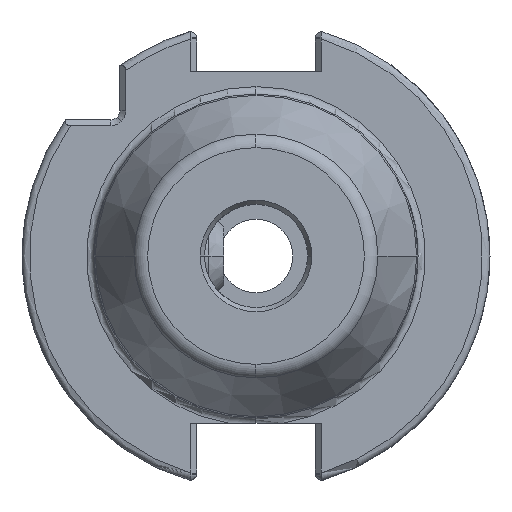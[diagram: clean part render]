
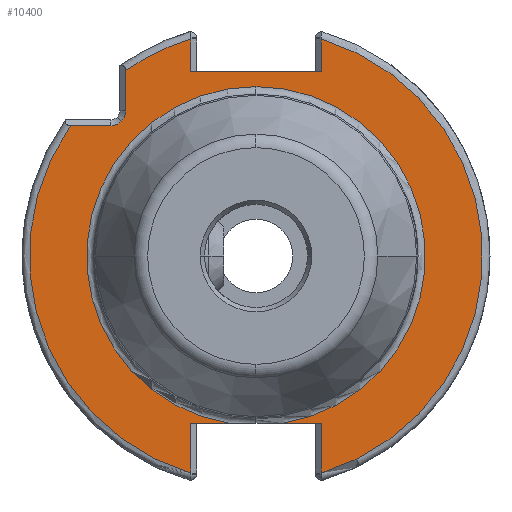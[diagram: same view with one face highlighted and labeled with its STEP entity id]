
A CAD part, front view. The second image highlights one B-rep face of the part: STEP entity #10400.
In plain terms, the highlighted planar face has unit normal (0, -1, 0).
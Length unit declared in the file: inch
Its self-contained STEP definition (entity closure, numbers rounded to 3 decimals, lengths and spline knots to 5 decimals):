
#18 = EDGE_CURVE ( 'NONE', #7217, #160, #2926, .T. ) ;
#44 = EDGE_CURVE ( 'NONE', #9735, #5160, #5776, .T. ) ;
#76 = LINE ( 'NONE', #7502, #7916 ) ;
#160 = VERTEX_POINT ( 'NONE', #6631 ) ;
#197 = VERTEX_POINT ( 'NONE', #2633 ) ;
#317 = VERTEX_POINT ( 'NONE', #5196 ) ;
#383 = EDGE_CURVE ( 'NONE', #317, #4658, #2983, .T. ) ;
#401 = CARTESIAN_POINT ( 'NONE',  ( -0.77559, -0.75197, 0.77559 ) ) ;
#408 = CARTESIAN_POINT ( 'NONE',  ( 0.34843, -0.75197, 1.16043 ) ) ;
#432 = CARTESIAN_POINT ( 'NONE',  ( -0.34843, -0.75197, -0.44685 ) ) ;
#669 = LINE ( 'NONE', #5788, #10387 ) ;
#692 = AXIS2_PLACEMENT_3D ( 'NONE', #401, #2863, #3781 ) ;
#711 = DIRECTION ( 'NONE',  ( 1., 0., 0. ) ) ;
#877 = CARTESIAN_POINT ( 'NONE',  ( 0., -0.75197, -0.8937 ) ) ;
#938 = VERTEX_POINT ( 'NONE', #4774 ) ;
#960 = DIRECTION ( 'NONE',  ( 0., -1., 0. ) ) ;
#1023 = CIRCLE ( 'NONE', #2617, 1.21161 ) ;
#1051 = ORIENTED_EDGE ( 'NONE', *, *, #383, .F. ) ;
#1059 = AXIS2_PLACEMENT_3D ( 'NONE', #1446, #4787, #2196 ) ;
#1148 = EDGE_CURVE ( 'NONE', #10928, #9735, #7327, .T. ) ;
#1245 = ORIENTED_EDGE ( 'NONE', *, *, #44, .F. ) ;
#1295 = DIRECTION ( 'NONE',  ( 0., -1., 0. ) ) ;
#1366 = AXIS2_PLACEMENT_3D ( 'NONE', #5472, #1295, #4639 ) ;
#1432 = DIRECTION ( 'NONE',  ( 0., 1., 0. ) ) ;
#1446 = CARTESIAN_POINT ( 'NONE',  ( 0., -0.75197, 0. ) ) ;
#1556 = DIRECTION ( 'NONE',  ( 0., 0., 1. ) ) ;
#1583 = VERTEX_POINT ( 'NONE', #10260 ) ;
#1656 = DIRECTION ( 'NONE',  ( -1., 0., 0. ) ) ;
#1718 = CIRCLE ( 'NONE', #3123, 0.07874 ) ;
#1862 = CARTESIAN_POINT ( 'NONE',  ( -0.14578, -0.75197, -0.8937 ) ) ;
#1959 = CARTESIAN_POINT ( 'NONE',  ( -0.69685, -0.75197, 0.77559 ) ) ;
#2063 = LINE ( 'NONE', #432, #10906 ) ;
#2096 = ORIENTED_EDGE ( 'NONE', *, *, #3017, .F. ) ;
#2196 = DIRECTION ( 'NONE',  ( -1., 0., 0. ) ) ;
#2230 = AXIS2_PLACEMENT_3D ( 'NONE', #6771, #960, #8451 ) ;
#2236 = CARTESIAN_POINT ( 'NONE',  ( 0., -0.75197, 0. ) ) ;
#2245 = CARTESIAN_POINT ( 'NONE',  ( 0.14578, -0.75197, -0.8937 ) ) ;
#2417 = CIRCLE ( 'NONE', #2230, 0.90551 ) ;
#2420 = ORIENTED_EDGE ( 'NONE', *, *, #4812, .F. ) ;
#2427 = CARTESIAN_POINT ( 'NONE',  ( -0.34843, -0.75197, -0.8937 ) ) ;
#2554 = ORIENTED_EDGE ( 'NONE', *, *, #1148, .F. ) ;
#2617 = AXIS2_PLACEMENT_3D ( 'NONE', #2236, #1432, #10672 ) ;
#2633 = CARTESIAN_POINT ( 'NONE',  ( -0.34843, -0.75197, 0.98425 ) ) ;
#2797 = DIRECTION ( 'NONE',  ( 0.707, 0., -0.707 ) ) ;
#2863 = DIRECTION ( 'NONE',  ( 0., -1., 0. ) ) ;
#2926 = LINE ( 'NONE', #6322, #9485 ) ;
#2982 = ORIENTED_EDGE ( 'NONE', *, *, #5480, .F. ) ;
#2983 = CIRCLE ( 'NONE', #692, 0.07874 ) ;
#3017 = EDGE_CURVE ( 'NONE', #8840, #9445, #2063, .T. ) ;
#3095 = ORIENTED_EDGE ( 'NONE', *, *, #9793, .F. ) ;
#3096 = CARTESIAN_POINT ( 'NONE',  ( 0.34843, -0.75197, -0.44685 ) ) ;
#3123 = AXIS2_PLACEMENT_3D ( 'NONE', #10451, #9754, #2797 ) ;
#3149 = DIRECTION ( 'NONE',  ( 0., 1., 0. ) ) ;
#3212 = ORIENTED_EDGE ( 'NONE', *, *, #8219, .F. ) ;
#3382 = DIRECTION ( 'NONE',  ( 0., 0., -1. ) ) ;
#3673 = CARTESIAN_POINT ( 'NONE',  ( -0.99117, -0.75197, 0.69685 ) ) ;
#3781 = DIRECTION ( 'NONE',  ( 0.707, 0., -0.707 ) ) ;
#3801 = ORIENTED_EDGE ( 'NONE', *, *, #18, .F. ) ;
#4009 = ORIENTED_EDGE ( 'NONE', *, *, #4317, .F. ) ;
#4082 = LINE ( 'NONE', #3096, #7191 ) ;
#4317 = EDGE_CURVE ( 'NONE', #10639, #8840, #10041, .T. ) ;
#4412 = FACE_OUTER_BOUND ( 'NONE', #8734, .T. ) ;
#4565 = CARTESIAN_POINT ( 'NONE',  ( 0.34843, -0.75197, -1.16043 ) ) ;
#4624 = ORIENTED_EDGE ( 'NONE', *, *, #9920, .T. ) ;
#4639 = DIRECTION ( 'NONE',  ( 0., 0., -1. ) ) ;
#4658 = VERTEX_POINT ( 'NONE', #1959 ) ;
#4691 = DIRECTION ( 'NONE',  ( 0., 0., -1. ) ) ;
#4716 = EDGE_CURVE ( 'NONE', #4658, #6039, #669, .T. ) ;
#4766 = CARTESIAN_POINT ( 'NONE',  ( 0.34843, -0.75197, -0.8937 ) ) ;
#4774 = CARTESIAN_POINT ( 'NONE',  ( 0., -0.75197, 0.90551 ) ) ;
#4787 = DIRECTION ( 'NONE',  ( 0., -1., 0. ) ) ;
#4812 = EDGE_CURVE ( 'NONE', #1583, #197, #76, .T. ) ;
#4957 = DIRECTION ( 'NONE',  ( -1., 0., 0. ) ) ;
#5160 = VERTEX_POINT ( 'NONE', #4565 ) ;
#5196 = CARTESIAN_POINT ( 'NONE',  ( -0.71991, -0.75197, 0.71991 ) ) ;
#5240 = EDGE_CURVE ( 'NONE', #7146, #938, #10568, .T. ) ;
#5472 = CARTESIAN_POINT ( 'NONE',  ( -0.98425, -0.75197, 0. ) ) ;
#5480 = EDGE_CURVE ( 'NONE', #7572, #7146, #9141, .T. ) ;
#5776 = CIRCLE ( 'NONE', #6117, 1.21161 ) ;
#5788 = CARTESIAN_POINT ( 'NONE',  ( -0.69685, -0.75197, 0.36417 ) ) ;
#6039 = VERTEX_POINT ( 'NONE', #7987 ) ;
#6117 = AXIS2_PLACEMENT_3D ( 'NONE', #7218, #3149, #711 ) ;
#6318 = DIRECTION ( 'NONE',  ( 0., 1., 0. ) ) ;
#6322 = CARTESIAN_POINT ( 'NONE',  ( -1.18652, -0.75197, 0.69685 ) ) ;
#6330 = CARTESIAN_POINT ( 'NONE',  ( -0.34843, -0.75197, -1.16043 ) ) ;
#6550 = ORIENTED_EDGE ( 'NONE', *, *, #10860, .F. ) ;
#6568 = ORIENTED_EDGE ( 'NONE', *, *, #4716, .F. ) ;
#6603 = VECTOR ( 'NONE', #6823, 39.37008 ) ;
#6631 = CARTESIAN_POINT ( 'NONE',  ( -0.77559, -0.75197, 0.69685 ) ) ;
#6685 = VECTOR ( 'NONE', #10759, 39.37008 ) ;
#6771 = CARTESIAN_POINT ( 'NONE',  ( 0., -0.75197, 0. ) ) ;
#6823 = DIRECTION ( 'NONE',  ( -1., 0., 0. ) ) ;
#7146 = VERTEX_POINT ( 'NONE', #2245 ) ;
#7191 = VECTOR ( 'NONE', #1556, 39.37008 ) ;
#7217 = VERTEX_POINT ( 'NONE', #3673 ) ;
#7218 = CARTESIAN_POINT ( 'NONE',  ( 0., -0.75197, 0. ) ) ;
#7327 = LINE ( 'NONE', #8271, #6685 ) ;
#7502 = CARTESIAN_POINT ( 'NONE',  ( -0.34843, -0.75197, 0.68898 ) ) ;
#7572 = VERTEX_POINT ( 'NONE', #4766 ) ;
#7671 = CARTESIAN_POINT ( 'NONE',  ( -0.78396, -0.75197, 0.98425 ) ) ;
#7730 = VECTOR ( 'NONE', #1656, 39.37008 ) ;
#7754 = DIRECTION ( 'NONE',  ( 1., 0., 0. ) ) ;
#7869 = ORIENTED_EDGE ( 'NONE', *, *, #5240, .F. ) ;
#7916 = VECTOR ( 'NONE', #3382, 39.37008 ) ;
#7987 = CARTESIAN_POINT ( 'NONE',  ( -0.69685, -0.75197, 0.99117 ) ) ;
#8219 = EDGE_CURVE ( 'NONE', #5160, #7572, #4082, .T. ) ;
#8271 = CARTESIAN_POINT ( 'NONE',  ( 0.34843, -0.75197, 0.49213 ) ) ;
#8329 = CARTESIAN_POINT ( 'NONE',  ( 0.34843, -0.75197, 0.98425 ) ) ;
#8451 = DIRECTION ( 'NONE',  ( -1., 0., 0. ) ) ;
#8533 = AXIS2_PLACEMENT_3D ( 'NONE', #10353, #6318, #9591 ) ;
#8734 = EDGE_LOOP ( 'NONE', ( #7869, #2982, #3212, #1245, #2554, #4624, #2420, #3095, #6568, #1051, #9257, #3801, #6550, #2096, #4009, #8924 ) ) ;
#8840 = VERTEX_POINT ( 'NONE', #2427 ) ;
#8924 = ORIENTED_EDGE ( 'NONE', *, *, #9922, .F. ) ;
#8944 = DIRECTION ( 'NONE',  ( 0., 0., 1. ) ) ;
#9062 = VECTOR ( 'NONE', #4957, 39.37008 ) ;
#9141 = LINE ( 'NONE', #9195, #7730 ) ;
#9195 = CARTESIAN_POINT ( 'NONE',  ( 0., -0.75197, -0.8937 ) ) ;
#9240 = LINE ( 'NONE', #7671, #6603 ) ;
#9257 = ORIENTED_EDGE ( 'NONE', *, *, #10055, .F. ) ;
#9445 = VERTEX_POINT ( 'NONE', #6330 ) ;
#9485 = VECTOR ( 'NONE', #7754, 39.37008 ) ;
#9591 = DIRECTION ( 'NONE',  ( 1., 0., 0. ) ) ;
#9693 = PLANE ( 'NONE',  #1366 ) ;
#9735 = VERTEX_POINT ( 'NONE', #408 ) ;
#9754 = DIRECTION ( 'NONE',  ( 0., -1., 0. ) ) ;
#9793 = EDGE_CURVE ( 'NONE', #6039, #1583, #10848, .T. ) ;
#9920 = EDGE_CURVE ( 'NONE', #10928, #197, #9240, .T. ) ;
#9922 = EDGE_CURVE ( 'NONE', #938, #10639, #2417, .T. ) ;
#10041 = LINE ( 'NONE', #877, #9062 ) ;
#10055 = EDGE_CURVE ( 'NONE', #160, #317, #1718, .T. ) ;
#10260 = CARTESIAN_POINT ( 'NONE',  ( -0.34843, -0.75197, 1.16043 ) ) ;
#10353 = CARTESIAN_POINT ( 'NONE',  ( 0., -0.75197, 0. ) ) ;
#10387 = VECTOR ( 'NONE', #8944, 39.37008 ) ;
#10400 = ADVANCED_FACE ( 'NONE', ( #4412 ), #9693, .T. ) ;
#10451 = CARTESIAN_POINT ( 'NONE',  ( -0.77559, -0.75197, 0.77559 ) ) ;
#10568 = CIRCLE ( 'NONE', #1059, 0.90551 ) ;
#10639 = VERTEX_POINT ( 'NONE', #1862 ) ;
#10672 = DIRECTION ( 'NONE',  ( 1., 0., 0. ) ) ;
#10759 = DIRECTION ( 'NONE',  ( 0., 0., 1. ) ) ;
#10848 = CIRCLE ( 'NONE', #8533, 1.21161 ) ;
#10860 = EDGE_CURVE ( 'NONE', #9445, #7217, #1023, .T. ) ;
#10906 = VECTOR ( 'NONE', #4691, 39.37008 ) ;
#10928 = VERTEX_POINT ( 'NONE', #8329 ) ;
